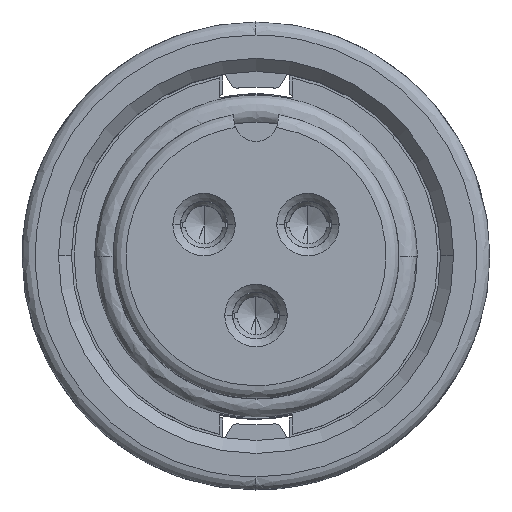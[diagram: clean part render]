
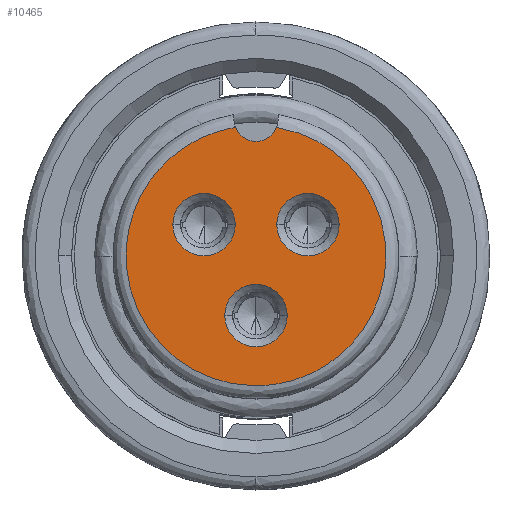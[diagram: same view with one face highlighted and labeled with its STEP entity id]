
A CAD part, top view. The second image highlights one B-rep face of the part: STEP entity #10465.
In plain terms, the highlighted planar face has unit normal (0, 0, 1).
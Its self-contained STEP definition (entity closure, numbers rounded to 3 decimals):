
#281 = CIRCLE ( 'NONE', #11556, 0.85 ) ;
#870 = FACE_BOUND ( 'NONE', #2572, .T. ) ;
#1389 = CARTESIAN_POINT ( 'NONE',  ( -0.8, 1.2, 0. ) ) ;
#2035 = CARTESIAN_POINT ( 'NONE',  ( 0., 5.25, 0. ) ) ;
#2256 = CARTESIAN_POINT ( 'NONE',  ( -9.194, 3.592, 0. ) ) ;
#2388 = VERTEX_POINT ( 'NONE', #10538 ) ;
#2452 = AXIS2_PLACEMENT_3D ( 'NONE', #4067, #7105, #17662 ) ;
#2572 = EDGE_LOOP ( 'NONE', ( #5488, #2978 ) ) ;
#2670 = EDGE_CURVE ( 'NONE', #12786, #8358, #4490, .T. ) ;
#2978 = ORIENTED_EDGE ( 'NONE', *, *, #18380, .T. ) ;
#3367 = CIRCLE ( 'NONE', #7438, 1.2 ) ;
#3414 = ORIENTED_EDGE ( 'NONE', *, *, #2670, .T. ) ;
#3634 = EDGE_CURVE ( 'NONE', #8358, #12786, #12769, .T. ) ;
#3642 = CARTESIAN_POINT ( 'NONE',  ( 3.2, 1.2, 0. ) ) ;
#3795 = CARTESIAN_POINT ( 'NONE',  ( 2., 1.2, 0. ) ) ;
#4067 = CARTESIAN_POINT ( 'NONE',  ( -2., 1.2, 0. ) ) ;
#4096 = DIRECTION ( 'NONE',  ( 1., 0., 0. ) ) ;
#4355 = ORIENTED_EDGE ( 'NONE', *, *, #16276, .T. ) ;
#4490 = CIRCLE ( 'NONE', #4812, 1.2 ) ;
#4542 = CARTESIAN_POINT ( 'NONE',  ( 2., 1.2, 0. ) ) ;
#4812 = AXIS2_PLACEMENT_3D ( 'NONE', #14578, #14483, #4096 ) ;
#5049 = ORIENTED_EDGE ( 'NONE', *, *, #9337, .T. ) ;
#5465 = DIRECTION ( 'NONE',  ( 0., 0., 1. ) ) ;
#5488 = ORIENTED_EDGE ( 'NONE', *, *, #18519, .T. ) ;
#6417 =( BOUNDED_CURVE ( )  B_SPLINE_CURVE ( 3, ( #8435, #9905, #2256, #14204 ),
 .UNSPECIFIED., .F., .T. ) 
 B_SPLINE_CURVE_WITH_KNOTS ( ( 4, 4 ),
 ( 0., 1. ),
 .UNSPECIFIED. ) 
 CURVE ( )  GEOMETRIC_REPRESENTATION_ITEM ( )  RATIONAL_B_SPLINE_CURVE ( ( 1., 0.39, 0.39, 1. ) ) 
 REPRESENTATION_ITEM ( '' )  );
#6665 = VERTEX_POINT ( 'NONE', #8579 ) ;
#6741 = FACE_BOUND ( 'NONE', #14104, .T. ) ;
#6948 = PLANE ( 'NONE',  #19359 ) ;
#7040 = FACE_BOUND ( 'NONE', #15615, .T. ) ;
#7105 = DIRECTION ( 'NONE',  ( 0., 0., -1. ) ) ;
#7125 = CIRCLE ( 'NONE', #14933, 1.2 ) ;
#7438 = AXIS2_PLACEMENT_3D ( 'NONE', #13373, #16596, #17775 ) ;
#7695 = CARTESIAN_POINT ( 'NONE',  ( 0., -2.3, 0. ) ) ;
#7720 = DIRECTION ( 'NONE',  ( 1., 0., 0. ) ) ;
#7798 =( BOUNDED_CURVE ( )  B_SPLINE_CURVE ( 3, ( #8032, #9411, #15765, #15379 ),
 .UNSPECIFIED., .F., .T. ) 
 B_SPLINE_CURVE_WITH_KNOTS ( ( 4, 4 ),
 ( 0., 1. ),
 .UNSPECIFIED. ) 
 CURVE ( )  GEOMETRIC_REPRESENTATION_ITEM ( )  RATIONAL_B_SPLINE_CURVE ( ( 1., 0.382, 0.382, 1. ) ) 
 REPRESENTATION_ITEM ( '' )  );
#7965 = CARTESIAN_POINT ( 'NONE',  ( -1.2, -2.3, 0. ) ) ;
#8032 = CARTESIAN_POINT ( 'NONE',  ( 0.79, 4.937, 0. ) ) ;
#8358 = VERTEX_POINT ( 'NONE', #1389 ) ;
#8388 = ORIENTED_EDGE ( 'NONE', *, *, #9013, .T. ) ;
#8404 = CARTESIAN_POINT ( 'NONE',  ( -0.061, -5., 0. ) ) ;
#8409 = DIRECTION ( 'NONE',  ( 1., 0., 0. ) ) ;
#8435 = CARTESIAN_POINT ( 'NONE',  ( -0.061, -5., 0. ) ) ;
#8579 = CARTESIAN_POINT ( 'NONE',  ( 0.8, 1.2, 0. ) ) ;
#9003 = CIRCLE ( 'NONE', #17121, 1.2 ) ;
#9013 = EDGE_CURVE ( 'NONE', #13143, #17463, #281, .T. ) ;
#9298 = VERTEX_POINT ( 'NONE', #8404 ) ;
#9337 = EDGE_CURVE ( 'NONE', #16589, #6665, #15925, .T. ) ;
#9411 = CARTESIAN_POINT ( 'NONE',  ( 9.38, 3.562, 0. ) ) ;
#9783 = CARTESIAN_POINT ( 'NONE',  ( 0.002, -0.031, 0. ) ) ;
#9905 = CARTESIAN_POINT ( 'NONE',  ( -8.571, -4.896, 0. ) ) ;
#10254 = DIRECTION ( 'NONE',  ( 1., 0., 0. ) ) ;
#10465 = ADVANCED_FACE ( 'NONE', ( #870, #6741, #7040, #18784 ), #6948, .T. ) ;
#10538 = CARTESIAN_POINT ( 'NONE',  ( 1.2, -2.3, 0. ) ) ;
#10765 = DIRECTION ( 'NONE',  ( 0., 0., -1. ) ) ;
#11342 = DIRECTION ( 'NONE',  ( 1., 0., 0. ) ) ;
#11440 = DIRECTION ( 'NONE',  ( 1., 0., 0. ) ) ;
#11556 = AXIS2_PLACEMENT_3D ( 'NONE', #2035, #10765, #7720 ) ;
#12508 = DIRECTION ( 'NONE',  ( 0., 0., -1. ) ) ;
#12769 = CIRCLE ( 'NONE', #2452, 1.2 ) ;
#12786 = VERTEX_POINT ( 'NONE', #14292 ) ;
#13089 = CARTESIAN_POINT ( 'NONE',  ( 0.79, 4.937, 0. ) ) ;
#13143 = VERTEX_POINT ( 'NONE', #13089 ) ;
#13373 = CARTESIAN_POINT ( 'NONE',  ( 0., -2.3, 0. ) ) ;
#13663 = DIRECTION ( 'NONE',  ( 0., 0., -1. ) ) ;
#14104 = EDGE_LOOP ( 'NONE', ( #3414, #15022 ) ) ;
#14204 = CARTESIAN_POINT ( 'NONE',  ( -0.79, 4.937, 0. ) ) ;
#14246 = CARTESIAN_POINT ( 'NONE',  ( -0.79, 4.937, 0. ) ) ;
#14292 = CARTESIAN_POINT ( 'NONE',  ( -3.2, 1.2, 0. ) ) ;
#14483 = DIRECTION ( 'NONE',  ( 0., 0., -1. ) ) ;
#14569 = ORIENTED_EDGE ( 'NONE', *, *, #15560, .F. ) ;
#14578 = CARTESIAN_POINT ( 'NONE',  ( -2., 1.2, 0. ) ) ;
#14921 = DIRECTION ( 'NONE',  ( 0., 0., -1. ) ) ;
#14933 = AXIS2_PLACEMENT_3D ( 'NONE', #4542, #14921, #11440 ) ;
#15022 = ORIENTED_EDGE ( 'NONE', *, *, #3634, .T. ) ;
#15125 = EDGE_LOOP ( 'NONE', ( #14569, #8388, #16743 ) ) ;
#15379 = CARTESIAN_POINT ( 'NONE',  ( -0.061, -5., 0. ) ) ;
#15560 = EDGE_CURVE ( 'NONE', #13143, #9298, #7798, .T. ) ;
#15615 = EDGE_LOOP ( 'NONE', ( #4355, #5049 ) ) ;
#15765 = CARTESIAN_POINT ( 'NONE',  ( 8.638, -5.106, 0. ) ) ;
#15925 = CIRCLE ( 'NONE', #16841, 1.2 ) ;
#16276 = EDGE_CURVE ( 'NONE', #6665, #16589, #7125, .T. ) ;
#16440 = VERTEX_POINT ( 'NONE', #7965 ) ;
#16589 = VERTEX_POINT ( 'NONE', #3642 ) ;
#16596 = DIRECTION ( 'NONE',  ( 0., 0., -1. ) ) ;
#16743 = ORIENTED_EDGE ( 'NONE', *, *, #16784, .F. ) ;
#16784 = EDGE_CURVE ( 'NONE', #9298, #17463, #6417, .T. ) ;
#16841 = AXIS2_PLACEMENT_3D ( 'NONE', #3795, #12508, #11342 ) ;
#17121 = AXIS2_PLACEMENT_3D ( 'NONE', #7695, #13663, #10254 ) ;
#17463 = VERTEX_POINT ( 'NONE', #14246 ) ;
#17662 = DIRECTION ( 'NONE',  ( 1., 0., 0. ) ) ;
#17775 = DIRECTION ( 'NONE',  ( 1., 0., 0. ) ) ;
#18380 = EDGE_CURVE ( 'NONE', #2388, #16440, #3367, .T. ) ;
#18519 = EDGE_CURVE ( 'NONE', #16440, #2388, #9003, .T. ) ;
#18784 = FACE_OUTER_BOUND ( 'NONE', #15125, .T. ) ;
#19359 = AXIS2_PLACEMENT_3D ( 'NONE', #9783, #5465, #8409 ) ;
